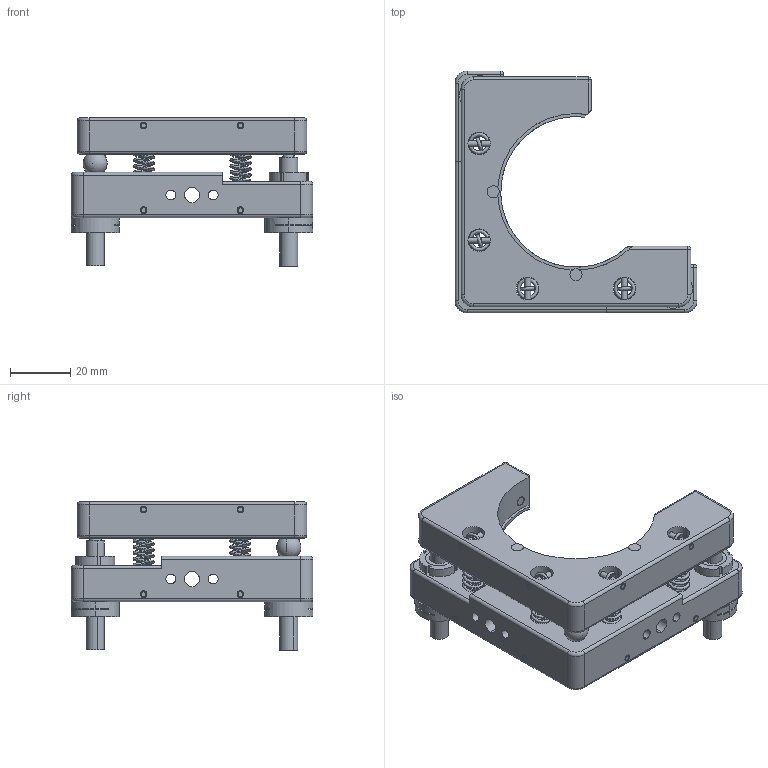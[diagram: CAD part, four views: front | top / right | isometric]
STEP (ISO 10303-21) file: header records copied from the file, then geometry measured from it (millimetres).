
FILE_DESCRIPTION (( 'STEP AP203' ), '1' );
FILE_NAME ('7MM16508謗峎覃淕噩殤.STEP', '2019-10-22T06:12:45', ( '' ), ( '' ), 'SwSTEP 2.0', 'SolidWorks 2014', '' );
FILE_SCHEMA (( 'CONFIG_CONTROL_DESIGN' ));
Length unit declared in the file: millimetre
Products named in the file (1): 7MM16508謗峎覃淕噩殤
Bounding box: 80 x 80 x 49.02 mm (x, y, z)
Surface area: 28699.3 mm2 (no closed solid volume)
Topology: 0 solids, 40 shells, 379 faces, 1041 edges, 652 vertices
Faces by surface type: cylinder 164, plane 101, torus 44, bspline 32, cone 24, sphere 14
Entity records: 23533 total; most frequent: CARTESIAN_POINT 14044, DIRECTION 2095, ORIENTED_EDGE 1782, EDGE_CURVE 998, AXIS2_PLACEMENT_3D 844, VERTEX_POINT 643, CIRCLE 496, EDGE_LOOP 445
